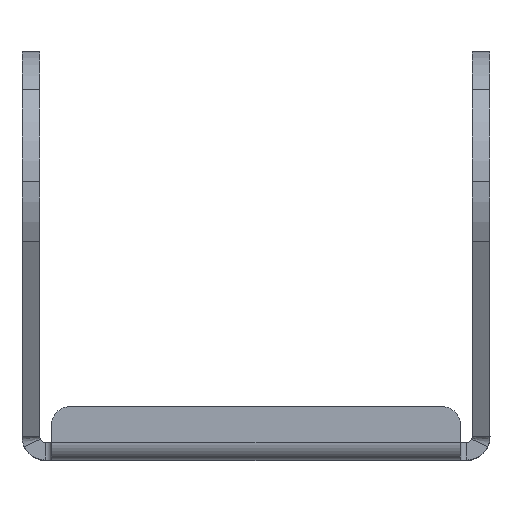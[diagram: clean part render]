
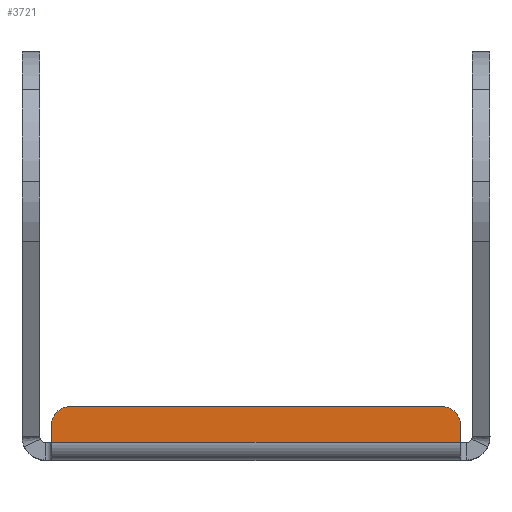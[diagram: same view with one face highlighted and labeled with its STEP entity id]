
A CAD part, top view. The second image highlights one B-rep face of the part: STEP entity #3721.
In plain terms, the highlighted planar face has unit normal (0, 0, 1).
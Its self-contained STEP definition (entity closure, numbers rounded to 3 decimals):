
#943=DIRECTION('',(1.,0.,0.));
#944=VECTOR('',#943,34.5);
#945=CARTESIAN_POINT('',(-17.25,1.5,13.));
#946=LINE('',#945,#944);
#968=CARTESIAN_POINT('',(-15.75,3.,13.));
#969=DIRECTION('',(0.,0.,1.));
#970=DIRECTION('',(0.,1.,0.));
#971=AXIS2_PLACEMENT_3D('',#968,#969,#970);
#973=DIRECTION('',(-1.,0.,0.));
#974=VECTOR('',#973,31.5);
#975=CARTESIAN_POINT('',(15.75,4.5,13.));
#976=LINE('',#975,#974);
#977=CARTESIAN_POINT('',(15.75,3.,13.));
#978=DIRECTION('',(0.,0.,1.));
#979=DIRECTION('',(1.,0.,0.));
#980=AXIS2_PLACEMENT_3D('',#977,#978,#979);
#982=DIRECTION('',(0.,1.,0.));
#983=VECTOR('',#982,0.701);
#984=CARTESIAN_POINT('',(17.25,2.299,13.));
#985=LINE('',#984,#983);
#986=DIRECTION('',(0.,1.,0.));
#987=VECTOR('',#986,0.259);
#988=CARTESIAN_POINT('',(17.25,2.04,13.));
#989=LINE('',#988,#987);
#990=DIRECTION('',(0.,-1.,0.));
#991=VECTOR('',#990,0.54);
#992=CARTESIAN_POINT('',(17.25,2.04,13.));
#993=LINE('',#992,#991);
#994=DIRECTION('',(0.,-1.,0.));
#995=VECTOR('',#994,0.54);
#996=CARTESIAN_POINT('',(-17.25,2.04,13.));
#997=LINE('',#996,#995);
#998=DIRECTION('',(0.,1.,0.));
#999=VECTOR('',#998,0.259);
#1000=CARTESIAN_POINT('',(-17.25,2.04,13.));
#1001=LINE('',#1000,#999);
#1002=DIRECTION('',(0.,-1.,0.));
#1003=VECTOR('',#1002,0.701);
#1004=CARTESIAN_POINT('',(-17.25,3.,13.));
#1005=LINE('',#1004,#1003);
#2510=CARTESIAN_POINT('',(-17.25,2.04,13.));
#2511=CARTESIAN_POINT('',(-17.25,1.5,13.));
#2512=VERTEX_POINT('',#2510);
#2513=VERTEX_POINT('',#2511);
#2518=CARTESIAN_POINT('',(-17.25,2.299,13.));
#2520=VERTEX_POINT('',#2518);
#2544=CARTESIAN_POINT('',(17.25,1.5,13.));
#2545=VERTEX_POINT('',#2544);
#2600=CARTESIAN_POINT('',(17.25,2.04,13.));
#2601=VERTEX_POINT('',#2600);
#2604=CARTESIAN_POINT('',(17.25,2.299,13.));
#2605=VERTEX_POINT('',#2604);
#2628=CARTESIAN_POINT('',(-17.25,3.,13.));
#2630=VERTEX_POINT('',#2628);
#2633=CARTESIAN_POINT('',(-15.75,4.5,13.));
#2634=VERTEX_POINT('',#2633);
#2636=CARTESIAN_POINT('',(15.75,4.5,13.));
#2638=VERTEX_POINT('',#2636);
#2641=CARTESIAN_POINT('',(17.25,3.,13.));
#2642=VERTEX_POINT('',#2641);
#3696=CARTESIAN_POINT('',(-9.315,0.,13.));
#3697=DIRECTION('',(0.,0.,1.));
#3698=DIRECTION('',(-1.,0.,0.));
#3699=AXIS2_PLACEMENT_3D('',#3696,#3697,#3698);
#3700=PLANE('',#3699);
#3702=ORIENTED_EDGE('',*,*,#3701,.F.);
#3704=ORIENTED_EDGE('',*,*,#3703,.F.);
#3706=ORIENTED_EDGE('',*,*,#3705,.F.);
#3708=ORIENTED_EDGE('',*,*,#3707,.F.);
#3710=ORIENTED_EDGE('',*,*,#3709,.F.);
#3712=ORIENTED_EDGE('',*,*,#3711,.T.);
#3713=ORIENTED_EDGE('',*,*,#3649,.F.);
#3714=ORIENTED_EDGE('',*,*,#3686,.F.);
#3716=ORIENTED_EDGE('',*,*,#3715,.T.);
#3718=ORIENTED_EDGE('',*,*,#3717,.F.);
#3719=EDGE_LOOP('',(#3702,#3704,#3706,#3708,#3710,#3712,#3713,#3714,#3716,
#3718));
#3720=FACE_OUTER_BOUND('',#3719,.F.);
#3721=ADVANCED_FACE('',(#3720),#3700,.T.);
#972=CIRCLE('',#971,1.5);
#981=CIRCLE('',#980,1.5);
#3649=EDGE_CURVE('',#2513,#2545,#946,.T.);
#3686=EDGE_CURVE('',#2512,#2513,#997,.T.);
#3701=EDGE_CURVE('',#2634,#2630,#972,.T.);
#3703=EDGE_CURVE('',#2638,#2634,#976,.T.);
#3705=EDGE_CURVE('',#2642,#2638,#981,.T.);
#3707=EDGE_CURVE('',#2605,#2642,#985,.T.);
#3709=EDGE_CURVE('',#2601,#2605,#989,.T.);
#3711=EDGE_CURVE('',#2601,#2545,#993,.T.);
#3715=EDGE_CURVE('',#2512,#2520,#1001,.T.);
#3717=EDGE_CURVE('',#2630,#2520,#1005,.T.);
